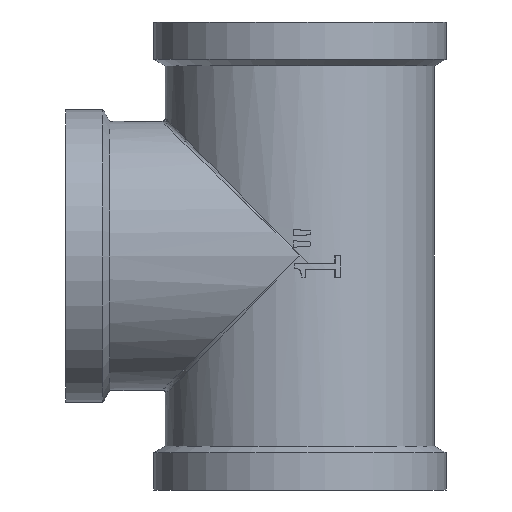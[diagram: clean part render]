
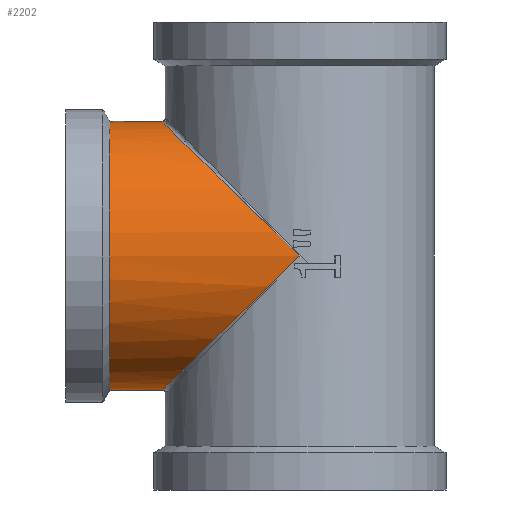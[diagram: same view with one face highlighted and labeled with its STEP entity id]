
A CAD part, left-side view. The second image highlights one B-rep face of the part: STEP entity #2202.
In plain terms, the highlighted cylindrical face has radius 18.4 mm (diameter 36.8 mm), a full revolution.
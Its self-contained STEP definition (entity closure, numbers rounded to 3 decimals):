
#40=ELLIPSE('',#2354,26.377,18.4);
#45=ELLIPSE('',#2359,26.377,18.4);
#46=ELLIPSE('',#2360,26.377,18.4);
#67=CIRCLE('',#2369,18.4);
#68=CIRCLE('',#2370,18.4);
#69=CIRCLE('',#2371,18.4);
#234=FACE_OUTER_BOUND('',#364,.T.);
#364=EDGE_LOOP('',(#1583,#1584,#1585,#1586,#1587,#1588,#1589,#1590));
#638=LINE('',#3422,#774);
#774=VECTOR('',#2643,18.4);
#908=VERTEX_POINT('',#3314);
#910=VERTEX_POINT('',#3323);
#916=VERTEX_POINT('',#3395);
#917=VERTEX_POINT('',#3397);
#924=VERTEX_POINT('',#3421);
#925=VERTEX_POINT('',#3423);
#1160=EDGE_CURVE('',#908,#910,#40,.T.);
#1167=EDGE_CURVE('',#910,#916,#45,.T.);
#1168=EDGE_CURVE('',#916,#917,#46,.T.);
#1179=EDGE_CURVE('',#917,#908,#67,.T.);
#1180=EDGE_CURVE('',#916,#924,#638,.T.);
#1181=EDGE_CURVE('',#924,#925,#68,.T.);
#1182=EDGE_CURVE('',#925,#924,#69,.T.);
#1583=ORIENTED_EDGE('',*,*,#1167,.F.);
#1584=ORIENTED_EDGE('',*,*,#1160,.F.);
#1585=ORIENTED_EDGE('',*,*,#1179,.F.);
#1586=ORIENTED_EDGE('',*,*,#1168,.F.);
#1587=ORIENTED_EDGE('',*,*,#1180,.T.);
#1588=ORIENTED_EDGE('',*,*,#1181,.T.);
#1589=ORIENTED_EDGE('',*,*,#1182,.T.);
#1590=ORIENTED_EDGE('',*,*,#1180,.F.);
#2129=CYLINDRICAL_SURFACE('',#2368,18.4);
#2202=ADVANCED_FACE('',(#234),#2129,.T.);
#2354=AXIS2_PLACEMENT_3D('',#3324,#2608,#2609);
#2359=AXIS2_PLACEMENT_3D('',#3396,#2618,#2619);
#2360=AXIS2_PLACEMENT_3D('',#3398,#2620,#2621);
#2368=AXIS2_PLACEMENT_3D('',#3419,#2639,#2640);
#2369=AXIS2_PLACEMENT_3D('',#3420,#2641,#2642);
#2370=AXIS2_PLACEMENT_3D('',#3424,#2644,#2645);
#2371=AXIS2_PLACEMENT_3D('',#3425,#2646,#2647);
#2608=DIRECTION('center_axis',(0.,-0.698,0.717));
#2609=DIRECTION('ref_axis',(0.,0.717,0.698));
#2618=DIRECTION('center_axis',(0.,-0.698,-0.717));
#2619=DIRECTION('ref_axis',(0.,0.717,-0.698));
#2620=DIRECTION('center_axis',(0.,-0.698,-0.717));
#2621=DIRECTION('ref_axis',(0.,0.717,-0.698));
#2639=DIRECTION('center_axis',(0.,-1.,0.));
#2640=DIRECTION('ref_axis',(0.,0.,1.));
#2641=DIRECTION('center_axis',(0.,-1.,0.));
#2642=DIRECTION('ref_axis',(0.,0.,1.));
#2643=DIRECTION('',(0.,1.,0.));
#2644=DIRECTION('center_axis',(0.,-1.,0.));
#2645=DIRECTION('ref_axis',(1.,0.,0.));
#2646=DIRECTION('center_axis',(0.,-1.,0.));
#2647=DIRECTION('ref_axis',(1.,0.,0.));
#3314=CARTESIAN_POINT('',(17.528,5.75,5.598));
#3323=CARTESIAN_POINT('',(-18.4,0.,0.));
#3324=CARTESIAN_POINT('Origin',(0.,0.,0.));
#3395=CARTESIAN_POINT('',(0.,18.9,-18.4));
#3396=CARTESIAN_POINT('Origin',(0.,0.,0.));
#3397=CARTESIAN_POINT('',(17.528,5.75,-5.598));
#3398=CARTESIAN_POINT('Origin',(0.,0.,0.));
#3419=CARTESIAN_POINT('Origin',(0.,13.,0.));
#3420=CARTESIAN_POINT('Origin',(0.,5.75,0.));
#3421=CARTESIAN_POINT('',(0.,26.,-18.4));
#3422=CARTESIAN_POINT('',(0.,13.,-18.4));
#3423=CARTESIAN_POINT('',(0.,26.,18.4));
#3424=CARTESIAN_POINT('Origin',(0.,26.,0.));
#3425=CARTESIAN_POINT('Origin',(0.,26.,0.));
